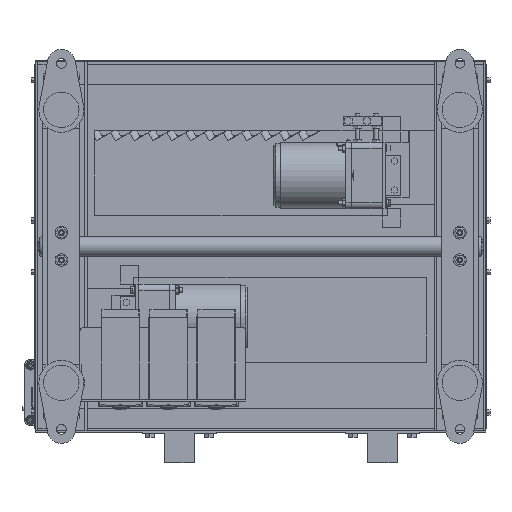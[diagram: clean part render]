
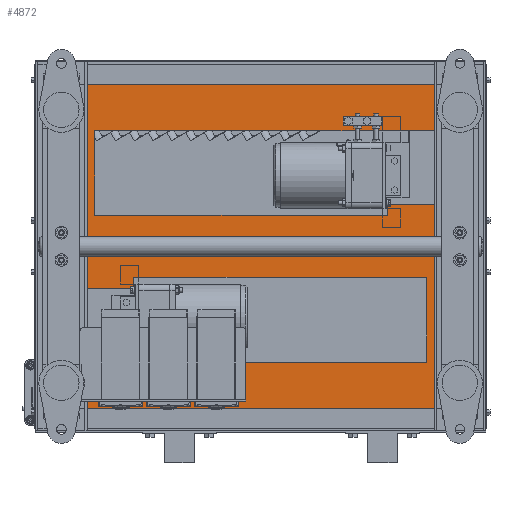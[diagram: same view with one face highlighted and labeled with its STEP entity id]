
A CAD part, front view. The second image highlights one B-rep face of the part: STEP entity #4872.
In plain terms, the highlighted planar face has unit normal (0, -1, 0).
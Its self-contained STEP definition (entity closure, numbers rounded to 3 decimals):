
#1365 = DIRECTION ( 'NONE',  ( 0., 0., 1. ) ) ;
#1688 = ORIENTED_EDGE ( 'NONE', *, *, #35794, .T. ) ;
#1754 = VECTOR ( 'NONE', #46651, 1000. ) ;
#2036 = ORIENTED_EDGE ( 'NONE', *, *, #7814, .F. ) ;
#2578 = CARTESIAN_POINT ( 'NONE',  ( 80., -93., 42. ) ) ;
#2844 = CARTESIAN_POINT ( 'NONE',  ( 477., -93., 57. ) ) ;
#3946 = VERTEX_POINT ( 'NONE', #49738 ) ;
#3982 = VECTOR ( 'NONE', #5049, 1000. ) ;
#4728 = PLANE ( 'NONE',  #24323 ) ;
#4872 = ADVANCED_FACE ( 'NONE', ( #38443, #47727, #11499 ), #4728, .F. ) ;
#5049 = DIRECTION ( 'NONE',  ( -1., 0., 0. ) ) ;
#5342 = DIRECTION ( 'NONE',  ( 0., 1., 0. ) ) ;
#5495 = VECTOR ( 'NONE', #33557, 1000. ) ;
#7229 = DIRECTION ( 'NONE',  ( 1., 0., 0. ) ) ;
#7615 = DIRECTION ( 'NONE',  ( 0., 0., -1. ) ) ;
#7762 = DIRECTION ( 'NONE',  ( 1., 0., 0. ) ) ;
#7814 = EDGE_CURVE ( 'NONE', #46461, #29918, #42996, .T. ) ;
#8554 = EDGE_CURVE ( 'NONE', #11390, #43066, #41599, .T. ) ;
#8608 = LINE ( 'NONE', #25358, #51285 ) ;
#8612 = LINE ( 'NONE', #47155, #53486 ) ;
#9507 = EDGE_CURVE ( 'NONE', #41751, #45262, #46222, .T. ) ;
#9542 = CARTESIAN_POINT ( 'NONE',  ( 3., -93., 500000. ) ) ;
#9753 = CARTESIAN_POINT ( 'NONE',  ( 3., -93., 247. ) ) ;
#10223 = EDGE_CURVE ( 'NONE', #50285, #54913, #21140, .T. ) ;
#10351 = EDGE_CURVE ( 'NONE', #14865, #19469, #23247, .T. ) ;
#10553 = CARTESIAN_POINT ( 'NONE',  ( 530., -93., -157. ) ) ;
#10967 = DIRECTION ( 'NONE',  ( -1., 0., 0. ) ) ;
#11390 = VERTEX_POINT ( 'NONE', #15872 ) ;
#11499 = FACE_OUTER_BOUND ( 'NONE', #45582, .T. ) ;
#11566 = CARTESIAN_POINT ( 'NONE',  ( 133., -93., -42. ) ) ;
#12159 = CARTESIAN_POINT ( 'NONE',  ( 477., -93., 42. ) ) ;
#13560 = LINE ( 'NONE', #44442, #18494 ) ;
#14246 = CARTESIAN_POINT ( 'NONE',  ( 530., -93., -42. ) ) ;
#14556 = ORIENTED_EDGE ( 'NONE', *, *, #21724, .F. ) ;
#14557 = LINE ( 'NONE', #57026, #45071 ) ;
#14688 = EDGE_CURVE ( 'NONE', #23367, #40425, #23195, .T. ) ;
#14865 = VERTEX_POINT ( 'NONE', #25166 ) ;
#15872 = CARTESIAN_POINT ( 'NONE',  ( 530., -93., -42. ) ) ;
#16102 = DIRECTION ( 'NONE',  ( 1., 0., 0. ) ) ;
#16745 = CARTESIAN_POINT ( 'NONE',  ( 477., -93., 57. ) ) ;
#17516 = DIRECTION ( 'NONE',  ( 0., 0., -1. ) ) ;
#17693 = ORIENTED_EDGE ( 'NONE', *, *, #54482, .F. ) ;
#18494 = VECTOR ( 'NONE', #49029, 1000. ) ;
#19191 = EDGE_CURVE ( 'NONE', #28906, #57508, #57376, .T. ) ;
#19341 = ORIENTED_EDGE ( 'NONE', *, *, #33121, .F. ) ;
#19469 = VERTEX_POINT ( 'NONE', #9753 ) ;
#20534 = EDGE_CURVE ( 'NONE', #54913, #28906, #39953, .T. ) ;
#21140 = LINE ( 'NONE', #40387, #5495 ) ;
#21650 = VECTOR ( 'NONE', #57008, 1000. ) ;
#21724 = EDGE_CURVE ( 'NONE', #43066, #23367, #32861, .T. ) ;
#21932 = CARTESIAN_POINT ( 'NONE',  ( 530., -93., -157. ) ) ;
#22135 = CARTESIAN_POINT ( 'NONE',  ( 607., -93., -247. ) ) ;
#22757 = ORIENTED_EDGE ( 'NONE', *, *, #20534, .F. ) ;
#23195 = LINE ( 'NONE', #46069, #35938 ) ;
#23247 = LINE ( 'NONE', #56286, #38822 ) ;
#23367 = VERTEX_POINT ( 'NONE', #32760 ) ;
#23603 = ORIENTED_EDGE ( 'NONE', *, *, #8554, .F. ) ;
#24246 = DIRECTION ( 'NONE',  ( 0., 0., -1. ) ) ;
#24323 = AXIS2_PLACEMENT_3D ( 'NONE', #27809, #5342, #32556 ) ;
#25166 = CARTESIAN_POINT ( 'NONE',  ( 607., -93., 247. ) ) ;
#25358 = CARTESIAN_POINT ( 'NONE',  ( 607., -93., 500000. ) ) ;
#25418 = VECTOR ( 'NONE', #31968, 1000. ) ;
#26793 = DIRECTION ( 'NONE',  ( 0., 0., -1. ) ) ;
#27809 = CARTESIAN_POINT ( 'NONE',  ( 610., -93., 500000. ) ) ;
#28906 = VERTEX_POINT ( 'NONE', #2578 ) ;
#29918 = VERTEX_POINT ( 'NONE', #10553 ) ;
#31187 = ORIENTED_EDGE ( 'NONE', *, *, #19191, .F. ) ;
#31968 = DIRECTION ( 'NONE',  ( 0., 0., -1. ) ) ;
#31989 = EDGE_LOOP ( 'NONE', ( #14556, #23603, #49579, #2036, #19341, #50506 ) ) ;
#32556 = DIRECTION ( 'NONE',  ( -1., 0., 0. ) ) ;
#32760 = CARTESIAN_POINT ( 'NONE',  ( 133., -93., -57. ) ) ;
#32861 = LINE ( 'NONE', #35287, #36387 ) ;
#33121 = EDGE_CURVE ( 'NONE', #40425, #46461, #35415, .T. ) ;
#33179 = CARTESIAN_POINT ( 'NONE',  ( 40., -93., -157. ) ) ;
#33545 = CARTESIAN_POINT ( 'NONE',  ( 40., -93., -57. ) ) ;
#33557 = DIRECTION ( 'NONE',  ( -1., 0., 0. ) ) ;
#35066 = VECTOR ( 'NONE', #17516, 1000. ) ;
#35149 = CARTESIAN_POINT ( 'NONE',  ( 80., -93., 42. ) ) ;
#35287 = CARTESIAN_POINT ( 'NONE',  ( 133., -93., -57. ) ) ;
#35415 = LINE ( 'NONE', #33179, #48218 ) ;
#35794 = EDGE_CURVE ( 'NONE', #19469, #3946, #50324, .T. ) ;
#35938 = VECTOR ( 'NONE', #46843, 1000. ) ;
#36072 = CARTESIAN_POINT ( 'NONE',  ( 570., -93., 157. ) ) ;
#36387 = VECTOR ( 'NONE', #26793, 1000. ) ;
#37867 = EDGE_CURVE ( 'NONE', #45262, #50285, #8612, .T. ) ;
#38443 = FACE_BOUND ( 'NONE', #46506, .T. ) ;
#38822 = VECTOR ( 'NONE', #10967, 1000. ) ;
#39953 = LINE ( 'NONE', #35149, #35066 ) ;
#40387 = CARTESIAN_POINT ( 'NONE',  ( 80., -93., 157. ) ) ;
#40425 = VERTEX_POINT ( 'NONE', #33545 ) ;
#40456 = VECTOR ( 'NONE', #16102, 1000. ) ;
#40757 = EDGE_CURVE ( 'NONE', #29918, #11390, #13560, .T. ) ;
#41233 = CARTESIAN_POINT ( 'NONE',  ( 80., -93., 42. ) ) ;
#41599 = LINE ( 'NONE', #14246, #3982 ) ;
#41751 = VERTEX_POINT ( 'NONE', #16745 ) ;
#42996 = LINE ( 'NONE', #21932, #58028 ) ;
#43066 = VERTEX_POINT ( 'NONE', #11566 ) ;
#43426 = CARTESIAN_POINT ( 'NONE',  ( 570., -93., 57. ) ) ;
#43712 = EDGE_CURVE ( 'NONE', #14865, #54528, #8608, .T. ) ;
#44442 = CARTESIAN_POINT ( 'NONE',  ( 530., -93., -157. ) ) ;
#45071 = VECTOR ( 'NONE', #7229, 1000. ) ;
#45237 = EDGE_CURVE ( 'NONE', #3946, #54528, #14557, .T. ) ;
#45262 = VERTEX_POINT ( 'NONE', #43426 ) ;
#45582 = EDGE_LOOP ( 'NONE', ( #47623, #45749, #1688, #57829 ) ) ;
#45749 = ORIENTED_EDGE ( 'NONE', *, *, #10351, .T. ) ;
#45827 = LINE ( 'NONE', #2844, #21650 ) ;
#46069 = CARTESIAN_POINT ( 'NONE',  ( 40., -93., -57. ) ) ;
#46222 = LINE ( 'NONE', #57055, #40456 ) ;
#46461 = VERTEX_POINT ( 'NONE', #54261 ) ;
#46506 = EDGE_LOOP ( 'NONE', ( #17693, #31187, #22757, #52182, #46630, #58165 ) ) ;
#46630 = ORIENTED_EDGE ( 'NONE', *, *, #37867, .F. ) ;
#46651 = DIRECTION ( 'NONE',  ( 1., 0., 0. ) ) ;
#46843 = DIRECTION ( 'NONE',  ( -1., 0., 0. ) ) ;
#47155 = CARTESIAN_POINT ( 'NONE',  ( 570., -93., 57. ) ) ;
#47623 = ORIENTED_EDGE ( 'NONE', *, *, #43712, .F. ) ;
#47727 = FACE_BOUND ( 'NONE', #31989, .T. ) ;
#48218 = VECTOR ( 'NONE', #24246, 1000. ) ;
#49029 = DIRECTION ( 'NONE',  ( 0., 0., 1. ) ) ;
#49579 = ORIENTED_EDGE ( 'NONE', *, *, #40757, .F. ) ;
#49738 = CARTESIAN_POINT ( 'NONE',  ( 3., -93., -247. ) ) ;
#50285 = VERTEX_POINT ( 'NONE', #36072 ) ;
#50324 = LINE ( 'NONE', #9542, #25418 ) ;
#50506 = ORIENTED_EDGE ( 'NONE', *, *, #14688, .F. ) ;
#51285 = VECTOR ( 'NONE', #7615, 1000. ) ;
#52182 = ORIENTED_EDGE ( 'NONE', *, *, #10223, .F. ) ;
#53486 = VECTOR ( 'NONE', #1365, 1000. ) ;
#54261 = CARTESIAN_POINT ( 'NONE',  ( 40., -93., -157. ) ) ;
#54482 = EDGE_CURVE ( 'NONE', #57508, #41751, #45827, .T. ) ;
#54528 = VERTEX_POINT ( 'NONE', #22135 ) ;
#54913 = VERTEX_POINT ( 'NONE', #56743 ) ;
#56286 = CARTESIAN_POINT ( 'NONE',  ( 610., -93., 247. ) ) ;
#56743 = CARTESIAN_POINT ( 'NONE',  ( 80., -93., 157. ) ) ;
#57008 = DIRECTION ( 'NONE',  ( 0., 0., 1. ) ) ;
#57026 = CARTESIAN_POINT ( 'NONE',  ( 610., -93., -247. ) ) ;
#57055 = CARTESIAN_POINT ( 'NONE',  ( 570., -93., 57. ) ) ;
#57376 = LINE ( 'NONE', #41233, #1754 ) ;
#57508 = VERTEX_POINT ( 'NONE', #12159 ) ;
#57829 = ORIENTED_EDGE ( 'NONE', *, *, #45237, .T. ) ;
#58028 = VECTOR ( 'NONE', #7762, 1000. ) ;
#58165 = ORIENTED_EDGE ( 'NONE', *, *, #9507, .F. ) ;
